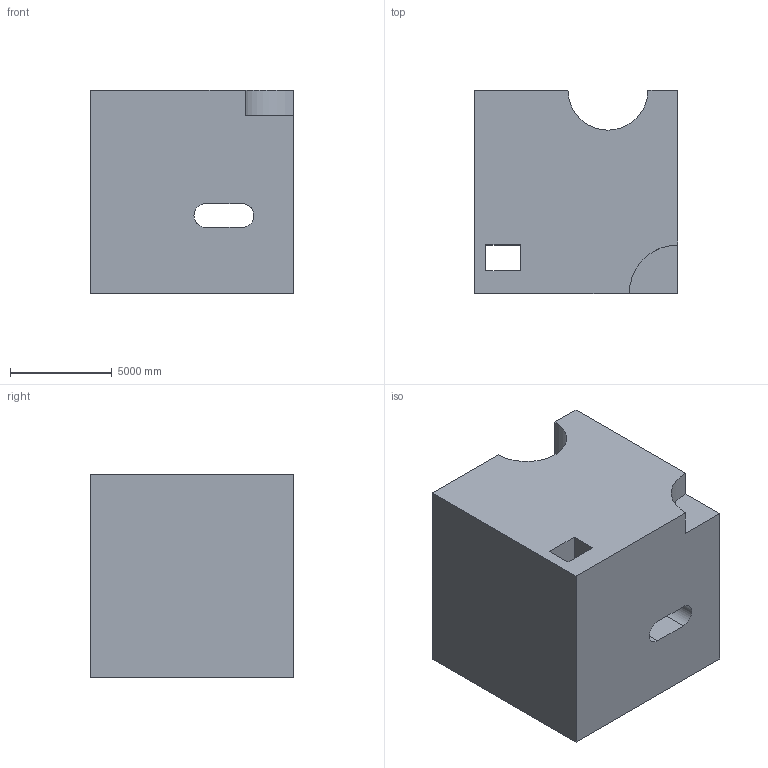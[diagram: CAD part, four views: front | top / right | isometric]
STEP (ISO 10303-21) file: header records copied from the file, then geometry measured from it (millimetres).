
FILE_DESCRIPTION (( 'STEP AP203' ), '1' );
FILE_NAME ('340.STEP', '2022-07-28T14:24:24', ( 'user' ), ( '' ), 'SwSTEP 2.0', 'SolidWorks 2021', '' );
FILE_SCHEMA (( 'CONFIG_CONTROL_DESIGN' ));
Length unit declared in the file: centimetre
Products named in the file (1): 340
Bounding box: 10000 x 10000 x 10000 mm (x, y, z)
Volume: 886119120708.9 mm3; surface area: 717855307.1 mm2
Topology: 1 solids, 1 shells, 18 faces, 48 edges, 32 vertices
Faces by surface type: plane 14, cylinder 4
Entity records: 887 total; most frequent: CARTESIAN_POINT 345, ORIENTED_EDGE 96, DIRECTION 92, EDGE_CURVE 48, LINE 38, VECTOR 38, VERTEX_POINT 32, AXIS2_PLACEMENT_3D 27
